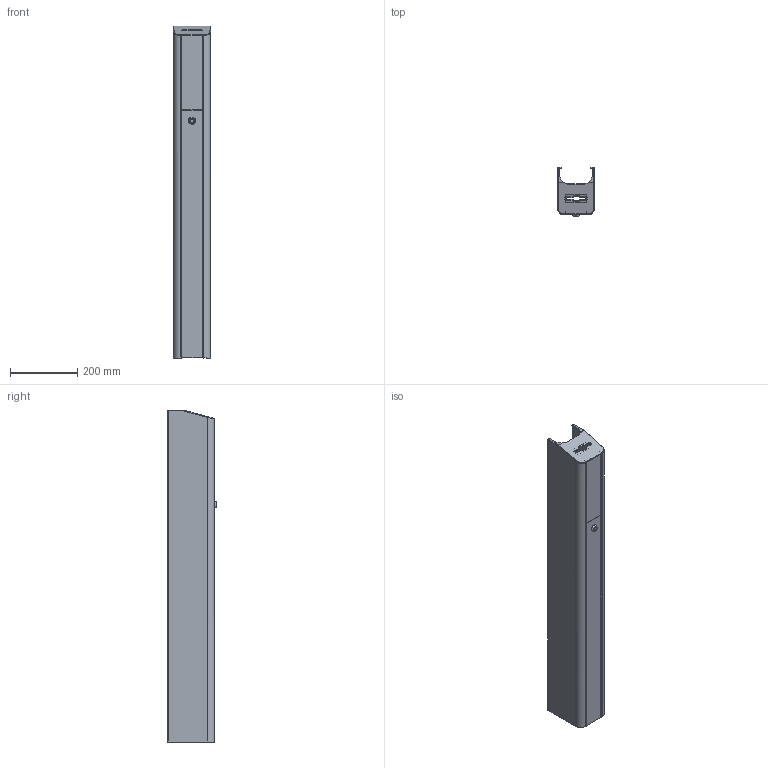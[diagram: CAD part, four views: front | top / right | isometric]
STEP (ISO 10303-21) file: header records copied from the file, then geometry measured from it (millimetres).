
FILE_DESCRIPTION(/* description */ ('Unknown'),/* implementation_level */ '2;1');
FILE_NAME(/* name */ 'ST-01 FP-01C',/* time_stamp */ '2021-12-24T09:24:06+03:00',/* author */ ('Unknown'),/* organization */ ('Unknown'),/* preprocessor_version */ 'ST-DEVELOPER v18.1',/* originating_system */ 'Solid Edge',/* authorisation */ 'Unknown');
FILE_SCHEMA (('CONFIG_CONTROL_DESIGN'));
Length unit declared in the file: millimetre
Products named in the file (41): ST-01 FP-01C; ST-01.7.100.00 ﾊ濱oa_0; ST-01.7.105.00 锐镱腠栩咫 戾踵龛珈_oa_1; ST-01.7.116.00 砑僗鐕謽趌oa_2; ST-01.7.110.00 砎魤鍱_oa_3; ST-01.7.115.00 Ýëåêòðîìàãíèò_äëÿ_ñáîðêè_oa_4; 誣哧铕黖1_oa_5; ST-01.7.112.00 Äàò÷èê â ñáîðå_oa_6; ST-01.7.113.00 懾譈鴀 闀蠂灚齕鴇 楎_oa_7; ST-01.7.256.00 Ïëàòà äàò÷èêà_oa_8; ST-01.7.114.00 忺摎錪_oa_9; Êàáåëü ëåíòî÷íûé (ïëîñêèé) ìíîãîæèëüíûé; 惛ST-01.7.111.00 砑僗鐕謽趌0_oa_10; ST-01.7.810.00 懾譈鴀 闀蠂灚齕鴇_oa_11; 橡钼钿 堂以-0,07 泥蝼桕 铒蜩麇耜栝; ST-01.7.810.00-01 懾譈鴀 闀蠂灚齕鴇_oa_12; ST-01.7.810.00-01 懾譈鴀 闀蠂灚齕鴇_oa_13; ST-01.7.135.00 Èíäèêàöèÿ òîðöåâàÿ_oa_14; st-01.755.00 Ïëàòà ïîäñâåòêè_oa_15; 砎鍒鍱 斻眕-0,07; ST-01.7.103.00 扻艜樥翴禬oa_16; Çàìîê öèëèíäð. àðò 99032_oa_17; Zamok1; ST-01.7.103.05 侲膹馯罻; T--01.7.104.00 秮鶋趌oa_18; ST-01.7.900.00 忺摎錪; ST-01.7.124.00 Êîðïóñ â ñáîðå_oa_19; ST-01.7.125.23 侲膹馯罻; ST-01.7.130.00 砐儊瞂襚趌oa_20; ST-01.7.130.01 忺艜; Òðóáêà ÏÕÂ (êåìáðèê) d  3,0õ50 ; Êàáåëü ëåíòî÷íûé (ïëîñêèé) ìíîãîæèëüíûé òðåõæèëüíûé_äëÿ ùåëè; ST-01.7.125.00 扻豵鵨_oa_21; ST-01.7.125.03-01 鍔膰睯縺; ST-01.7.125.03 鍔膰睯縺; ST-01.7.126.00  Ïëàíêà èíäèêàöèè â ñáîðå_oa_22; ST-01.7.127.00  扰鍙欙樥燲oa_23; ST-01.7.128.00  扰鍙欙樥燲oa_24; ST-01.7.127.00-01  扰鍙欙樥燲oa_25; ST-01.7.129.00 Óïîð â ñáîðå _oa_26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
Assembly tree (41 placements, depth 8):
  ST-01 FP-01C
    ST-01.7.100.00 ﾊ濱oa_0
      ST-01.7.105.00 锐镱腠栩咫 戾踵龛珈_oa_1
        ST-01.7.116.00 砑僗鐕謽趌oa_2
        ST-01.7.110.00 砎魤鍱_oa_3
          ST-01.7.115.00 Ýëåêòðîìàãíèò_äëÿ_ñáîðêè_oa_4
          誣哧铕黖1_oa_5
          ST-01.7.112.00 Äàò÷èê â ñáîðå_oa_6
            ST-01.7.113.00 懾譈鴀 闀蠂灚齕鴇 楎_oa_7
              ST-01.7.256.00 Ïëàòà äàò÷èêà_oa_8
              ST-01.7.114.00 忺摎錪_oa_9
                Êàáåëü ëåíòî÷íûé (ïëîñêèé) ìíîãîæèëüíûé
          惛ST-01.7.111.00 砑僗鐕謽趌0_oa_10
        ST-01.7.810.00 懾譈鴀 闀蠂灚齕鴇_oa_11
          橡钼钿 堂以-0,07 泥蝼桕 铒蜩麇耜栝
        ST-01.7.810.00-01 懾譈鴀 闀蠂灚齕鴇_oa_12
        ST-01.7.810.00-01 懾譈鴀 闀蠂灚齕鴇_oa_13
      ST-01.7.135.00 Èíäèêàöèÿ òîðöåâàÿ_oa_14
        st-01.755.00 Ïëàòà ïîäñâåòêè_oa_15
        砎鍒鍱 斻眕-0,07
      ST-01.7.103.00 扻艜樥翴禬oa_16
        Çàìîê öèëèíäð. àðò 99032_oa_17
          Zamok1
        ST-01.7.103.05 侲膹馯罻
        T--01.7.104.00 秮鶋趌oa_18
      ST-01.7.900.00 忺摎錪
      ST-01.7.124.00 Êîðïóñ â ñáîðå_oa_19
        ST-01.7.125.23 侲膹馯罻
        ST-01.7.130.00 砐儊瞂襚趌oa_20
          ST-01.7.130.01 忺艜
          砎鍒鍱 斻眕-0,07
          Òðóáêà ÏÕÂ (êåìáðèê) d  3,0õ50 
          Êàáåëü ëåíòî÷íûé (ïëîñêèé) ìíîãîæèëüíûé òðåõæèëüíûé_äëÿ ùåëè
        ST-01.7.125.00 扻豵鵨_oa_21
          ST-01.7.125.03-01 鍔膰睯縺
          ST-01.7.125.03 鍔膰睯縺
          ST-01.7.126.00  Ïëàíêà èíäèêàöèè â ñáîðå_oa_22
            ST-01.7.127.00  扰鍙欙樥燲oa_23
            ST-01.7.128.00  扰鍙欙樥燲oa_24
            ST-01.7.127.00-01  扰鍙欙樥燲oa_25
            ST-01.7.129.00 Óïîð â ñáîðå _oa_26
          ST-01.7.125.07 ﾊ濱oa_27
Bounding box: 110 x 146.3 x 987 mm (x, y, z)
Volume: 695667.3 mm3; surface area: 816874.4 mm2
Topology: 7 solids, 7 shells, 295 faces, 759 edges, 483 vertices
Faces by surface type: plane 178, cylinder 105, torus 6, bspline 4, cone 2
Full cylindrical faces by diameter (mm): 3 x6, 10 x1, 21 x1
Entity records: 9974 total; most frequent: CARTESIAN_POINT 1857, DIRECTION 1618, ORIENTED_EDGE 1496, EDGE_CURVE 748, AXIS2_PLACEMENT_3D 547, LINE 524, VECTOR 524, VERTEX_POINT 482
